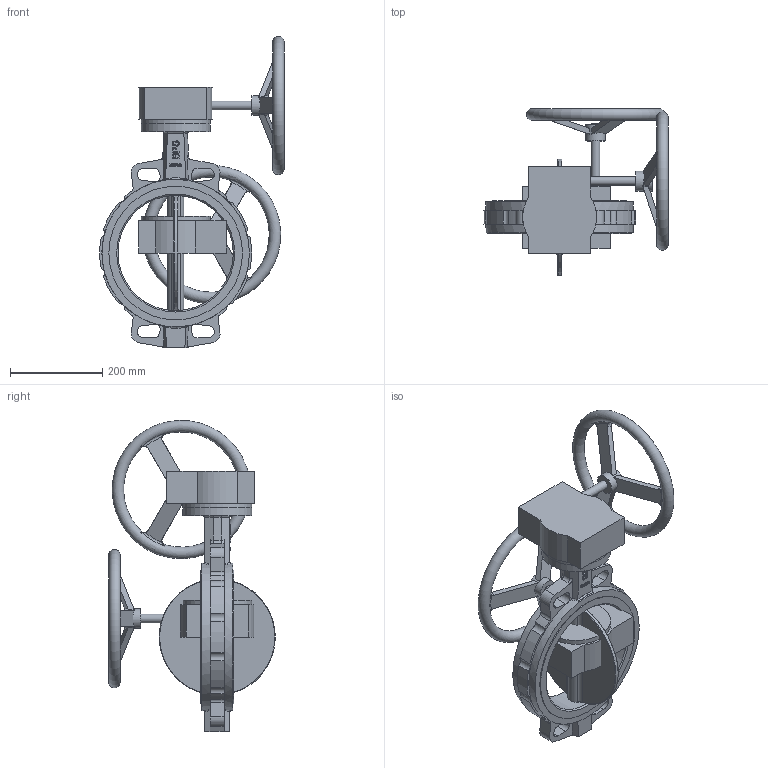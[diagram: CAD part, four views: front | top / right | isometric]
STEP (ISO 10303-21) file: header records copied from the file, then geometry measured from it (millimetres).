
FILE_DESCRIPTION( ( 'Unknown' ), '1' );
FILE_NAME( 'R:/ECCUA/ROOTSI BPS 3D vidinad/Poordklapid Wafer type/Butterfly valve(wafer) with gearbox BPS/STEP formaat/BPS 2303250 butterfly valve DN250.stp', 'Unknown', ( 'Unknown' ), ( 'Unknown' ), 'PSStep 10.1', 'Unknown', ' ' );
FILE_SCHEMA( ( 'AUTOMOTIVE_DESIGN { 1 0 10303 214 1 1 1 1 }' ) );
Length unit declared in the file: millimetre
Products named in the file (3): Assem1; Butterfly valve wafer type DN250 BPS; Gearbox DN250-350 BPS
Bounding box: 400.1 x 361.5 x 674.9 mm (x, y, z)
Volume: 13129889.6 mm3; surface area: 1256372 mm2
Topology: 4 solids, 4 shells, 524 faces, 1418 edges, 942 vertices
Faces by surface type: plane 196, cylinder 160, extrusion 96, bspline 50, torus 18, cone 4
Full cylindrical faces by diameter (mm): 13 x8, 19 x4, 43 x2, 150 x4, 250 x2, 290 x4, 320 x4
Entity records: 16143 total; most frequent: CARTESIAN_POINT 7771, ORIENTED_EDGE 1356, DIRECTION 1114, EDGE_CURVE 678, VERTEX_POINT 461, AXIS2_PLACEMENT_3D 378, VECTOR 358, EDGE_LOOP 327
